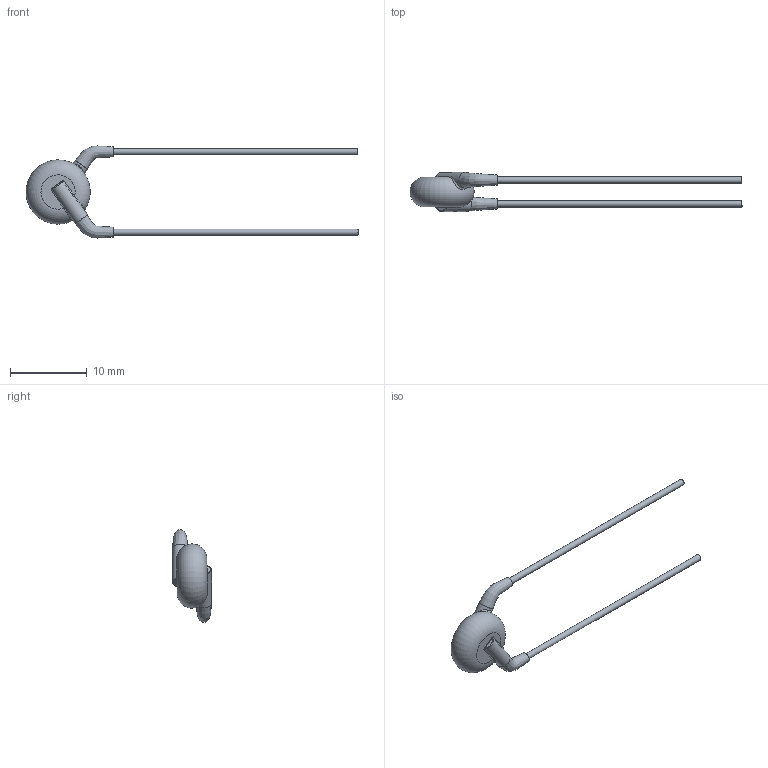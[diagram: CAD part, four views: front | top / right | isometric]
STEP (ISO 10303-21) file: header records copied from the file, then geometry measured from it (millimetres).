
FILE_DESCRIPTION(/* description */ (''),/* implementation_level */ '2;1');
FILE_NAME(/* name */ 'I:\Marketing\M6t1\3D-Models\Zchng-Werk-3\Upload for homepage\Ceramite\R3L\440LQ33-R\440LQ33-R.stp',/* time_stamp */ '2016-11-10T13:36:29+01:00',/* author */ ('sheinrich'),/* organization */ (''),/* preprocessor_version */ 'ST-DEVELOPER v16.1',/* originating_system */ 'Autodesk Inventor 2016',/* authorisation */ '');
FILE_SCHEMA (('AUTOMOTIVE_DESIGN { 1 0 10303 214 3 1 1 }'));
Length unit declared in the file: millimetre
Products named in the file (1): 440LQ33-R
Bounding box: 43.4 x 5.1 x 12.03 mm (x, y, z)
Volume: 246.4 mm3; surface area: 396.4 mm2
Topology: 1 solids, 1 shells, 37 faces, 80 edges, 43 vertices
Faces by surface type: bspline 12, cylinder 10, plane 8, torus 7
Full cylindrical faces by diameter (mm): 0.81 x2, 2 x2
Entity records: 1931 total; most frequent: CARTESIAN_POINT 1180, ORIENTED_EDGE 136, DIRECTION 128, EDGE_CURVE 68, AXIS2_PLACEMENT_3D 58, EDGE_LOOP 44, VERTEX_POINT 40, STYLED_ITEM 38
